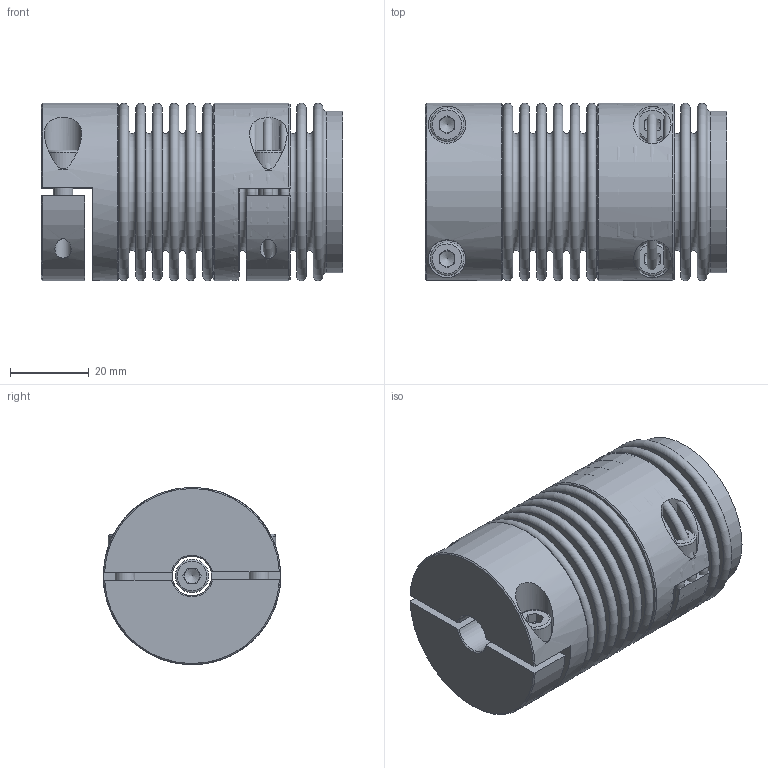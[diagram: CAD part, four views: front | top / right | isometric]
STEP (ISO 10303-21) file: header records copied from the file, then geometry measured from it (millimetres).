
FILE_DESCRIPTION( ( 'Unknown' ), '1' );
FILE_NAME( 'C:/Dokumente und Einstellungen/SKarpstein/Desktop/hp kbk/KB4H-18-63.stp', 'Unknown', ( 'Unknown' ), ( 'Unknown' ), 'XStep 1.0', 'Unknown', ' ' );
FILE_SCHEMA( ( 'automotive_design' ) );
Length unit declared in the file: millimetre
Products named in the file (5): Assem1; KN4H-18; BK18_Standard_0; Socket Head Cap Screw_DIN_DIN 912 M5 x 16 --- 16N_4
Bounding box: 76.42 x 45 x 45 mm (x, y, z)
Volume: 86212.9 mm3; surface area: 79426.9 mm2
Topology: 13 solids, 13 shells, 287 faces, 579 edges, 370 vertices
Faces by surface type: plane 156, torus 58, cylinder 48, cone 25
Full cylindrical faces by diameter (mm): 4.134 x6, 5 x5, 5.3 x6, 8.5 x5, 9.5 x6, 10 x3, 40.4 x4, 41 x4, 45 x3
Entity records: 3080 total; most frequent: CARTESIAN_POINT 664, DIRECTION 434, ORIENTED_EDGE 280, AXIS2_PLACEMENT_3D 197, EDGE_LOOP 178, EDGE_CURVE 140, FACE_OUTER_BOUND 139, VERTEX_POINT 117
